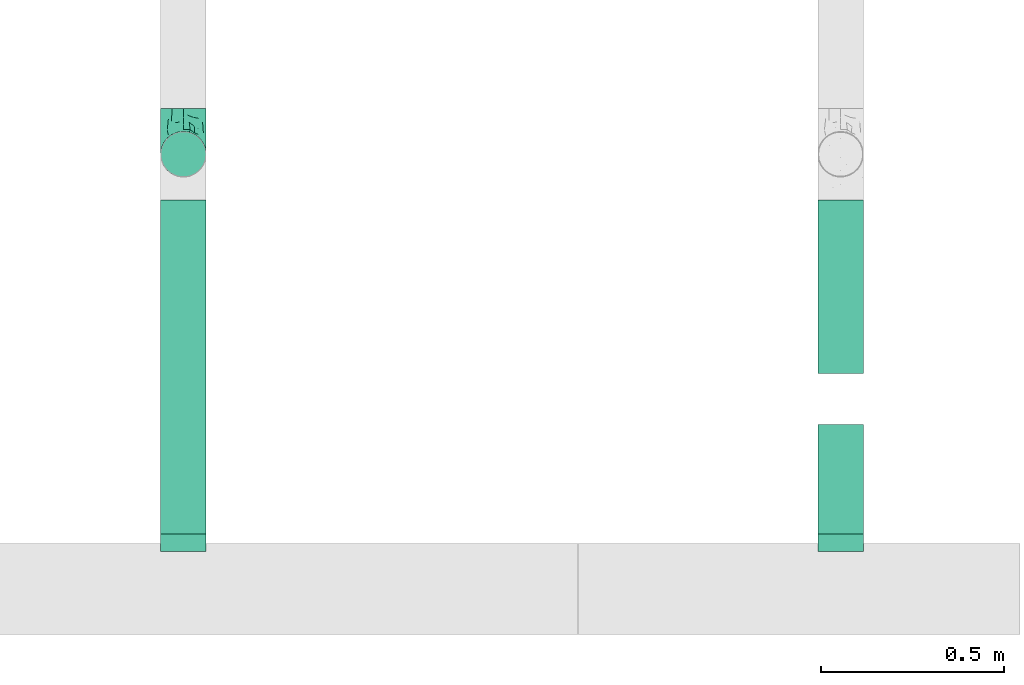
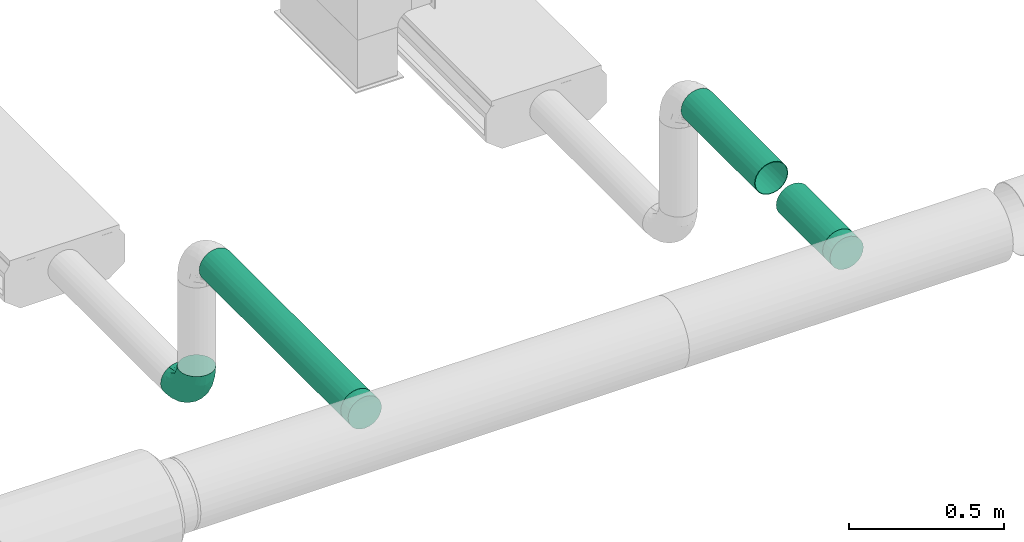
# One storey, part 27 of 36: 3 flow fittings, 3 flow segments.
"""IFC2X3 building model written with IfcOpenShell, lengths in millimetres."""

from ifc_helpers import new_model, entity, si_unit, converted_unit, derived_unit, direction, frame, origin_with_axes, origin_2d_with_axis, place, context, subcontext, project, spatial, hollow_circle, extrude, open_shell, surface_model, source, transform, mapped, type_object, element, save


model = new_model("IFC2X3")

# Units and contexts
model_context = context("Model", 3, precision=0.01, world=frame((0.0, 4.29681676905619e-09, 0.0)), true_north=direction((4.01073788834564e-13, 1.0)))
plan_context = context("Plan", 3, precision=0.01, world=frame((0.0, 4.29681676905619e-09, 0.0)), true_north=direction((4.01073788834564e-13, 1.0)))
body_context = subcontext(model_context, "Body", "Model", "MODEL_VIEW")
ifc_project = project(units=[converted_unit("PLANEANGLEUNIT", "DEGREE", entity("IfcPositiveLengthMeasure", 0.0174532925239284), si_unit("PLANEANGLEUNIT", "RADIAN"), dimensions=[0, 0, 0, 0, 0, 0, 0]), si_unit("AREAUNIT", "SQUARE_METRE"), si_unit("LENGTHUNIT", "METRE", prefix="MILLI"), si_unit("MASSUNIT", "GRAM", prefix="KILO"), si_unit("POWERUNIT", "WATT"), si_unit("PRESSUREUNIT", "PASCAL"), si_unit("FORCEUNIT", "NEWTON", prefix="KILO"), si_unit("ELECTRICCURRENTUNIT", "AMPERE"), si_unit("THERMODYNAMICTEMPERATUREUNIT", "DEGREE_CELSIUS"), si_unit("TIMEUNIT", "SECOND"), si_unit("VOLUMEUNIT", "CUBIC_METRE"), derived_unit("LINEARVELOCITYUNIT", [(si_unit("LENGTHUNIT", "METRE"), 1), (si_unit("TIMEUNIT", "SECOND"), -1)]), derived_unit("VOLUMETRICFLOWRATEUNIT", [(si_unit("VOLUMEUNIT", "CUBIC_METRE"), 1), (si_unit("TIMEUNIT", "SECOND"), -1)]), derived_unit("THERMALTRANSMITTANCEUNIT", [(si_unit("POWERUNIT", "WATT"), 1), (si_unit("THERMODYNAMICTEMPERATUREUNIT", "KELVIN"), -1), (si_unit("AREAUNIT", "SQUARE_METRE"), -1)])], contexts=[model_context, plan_context])

# Site, building, storey
site_placement = place(None, frame((0.0, -4.29681676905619e-09, 0.0), z_axis=(0.0, 0.0, 1.0), x_axis=(1.0, 0.0, 0.0)))
site = spatial("IfcSite", under=ifc_project, at=site_placement, CompositionType="ELEMENT")
building_placement = place(site_placement, frame((0.0, 4.29681676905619e-09, 0.0), z_axis=(0.0, 0.0, 1.0), x_axis=(1.0, 0.0, 0.0)))
building = spatial("IfcBuilding", under=site, at=building_placement, Name="mc-building", CompositionType="ELEMENT")
storey_placement = place(building_placement, frame((0.0, 0.0, 204000.0), z_axis=(0.0, 0.0, 1.0), x_axis=(1.0, 0.0, 0.0)))
storey = spatial("IfcBuildingStorey", under=building, at=storey_placement, Name="Nivå D", CompositionType="ELEMENT", Elevation=204000.0)

# Flow fittings
duct_fitting_type_1 = type_object("IfcDuctFittingType", Name="magicirc_elbow_full_radius_001", PredefinedType="BEND")
shared_shape_1 = source(origin_with_axes(), body_context, "Body", "SurfaceModel", [
    surface_model("IfcShellBasedSurfaceModel", [(-125.00008, 16.17619, -60.37037), (-125.00008, 0.0, -62.5), (-125.00008, 44.19417, -44.19417), (-125.00008, 31.25, -54.12659), (-125.00008, 60.37037, -16.17619), (-125.00008, 54.12659, -31.25), (-125.00008, -16.17619, -60.37037), (-125.00008, -31.25, -54.12659), (-125.00008, -44.19417, -44.19417), (-125.00008, -54.12659, -31.25), (-125.00008, -60.37037, -16.17619), (-125.00008, -62.5, 0.0), (-125.00008, 62.5, 0.0), (-125.00008, -31.25, 54.12659), (-125.00008, 60.37037, 16.17619), (-125.00008, 54.12659, 31.25), (-125.00008, 16.17619, 60.37037), (-125.00008, 31.25, 54.12659), (-125.00008, 44.19417, 44.19417), (-125.00008, -54.12659, 31.25), (-125.00008, -44.19417, 44.19417), (-125.00008, -60.37037, 16.17619), (-125.00008, -16.17619, 60.37037), (-125.00008, 0.0, 62.5), (-16.17627, 125.00007, -60.37037), (44.1941, 125.00011, -44.19417), (-8e-05, 125.00008, -62.5), (-44.19425, 125.00006, -44.19417), (-31.25008, 125.00006, -54.12659), (-54.12667, 125.00005, -31.25), (-60.37044, 125.00004, -16.17619), (16.17611, 125.00009, -60.37037), (31.24992, 125.0001, -54.12659), (60.37028, 125.00012, -16.17619), (54.12651, 125.00012, -31.25), (62.49992, 125.00012, 0.0), (-60.37044, 125.00004, 16.17619), (-16.17627, 125.00007, 60.37037), (-44.19425, 125.00006, 44.19417), (-54.12667, 125.00005, 31.25), (-31.25008, 125.00006, 54.12659), (-8e-05, 125.00008, 62.5), (60.37028, 125.00012, 16.17619), (44.1941, 125.00011, 44.19417), (54.12651, 125.00012, 31.25), (31.24992, 125.0001, 54.12659), (16.17611, 125.00009, 60.37037), (-62.50008, 125.00004, 0.0), (-92.01499, -48.59662, 35.11543), (-82.31108, -36.10079, 46.59002), (-83.27738, -57.79898, 0.0), (21.59337, 8.09572, 0.0), (6.68949, -6.68949, 12.50062), (-8.0957, -21.59337, 0.0), (-85.18294, -54.95352, 19.72452), (-63.86869, 108.10794, 10.69753), (-72.65271, 88.16477, 13.64848), (-58.8594, 108.47701, 26.01877), (28.68801, 50.93019, 42.73586), (15.2499, 48.30382, 51.88115), (13.33609, 22.15572, 40.76355), (-28.58039, -33.18172, 16.61251), (-55.80936, -40.00167, 31.60253), (-55.92907, -46.21073, 18.75922), (-43.64685, -43.93165, 0.0), (-11.16432, 11.16432, 51.09904), (-91.91548, -23.64007, 56.2333), (-48.30381, -15.24993, 51.88115), (-62.22465, -0.56087, 60.57833), (-86.05227, 71.09174, 22.01564), (-76.29763, 73.71529, 30.99182), (-95.48006, -8.27954, 61.43109), (-21.7217, 61.46247, 62.38786), (-46.2947, 46.29467, 60.98138), (-37.21572, 27.312, 62.17805), (-96.34428, 24.51221, 59.0402), (-23.33019, 107.80842, 58.54242), (-8.56594, 93.49125, 62.34649), (-87.52036, 9.58041, 62.39347), (-90.84336, 62.14568, 32.36992), (-104.65638, 61.64741, 22.10299), (-108.6762, 63.76169, 10.43133), (-88.81048, 72.98576, 10.36438), (36.10074, 82.31111, 46.59002), (-22.15571, -13.3361, 40.76355), (-97.70221, 52.10141, 41.01675), (33.1817, 28.58041, 16.61251), (43.93162, 43.64688, 0.0), (-108.1333, 37.84893, 50.9265), (-16.31429, 41.86092, 61.36861), (-31.05503, 11.46575, 58.3624), (-6.385, 33.76706, 57.43674), (23.64002, 91.9155, 56.2333), (8.27948, 95.48006, 61.43109), (40.00164, 55.80938, 31.60253), (47.31254, 55.33616, 14.21496), (57.79892, 83.27743, 0.0), (54.95347, 85.18296, 19.72452), (48.59656, 92.01501, 35.11543), (-51.08399, 80.06206, 49.23756), (-51.34971, 100.68879, 40.68918), (-65.8815, 69.79933, 44.27158), (-67.2576, 101.08231, 0.0), (-66.75096, 56.08362, 51.93913), (-47.27429, 67.56378, 55.69769), (-80.8059, 80.80584, 0.0), (-101.08236, 67.25753, 0.0), (-27.03015, 84.68907, 59.52251), (-39.49555, 96.79791, 51.80473), (-4.68937, 4.68937, 43.22246), (2.91364, -2.91364, 27.95972), (-68.67974, 26.77169, 61.38152), (-61.329, 15.31518, 62.47333), (-66.44481, 42.4079, 57.80884), (-86.0654, 42.42608, 52.63145), (-36.40735, 64.87814, 59.87196), (0.56083, 62.22465, 60.57833), (-50.92898, -28.66756, 42.75499), (-64.50933, 88.50412, 30.85553), (-27.43127, -26.16339, 29.83955), (22.73421, 21.43216, 28.89236), (-90.73917, 40.97988, -52.27133), (-51.05948, -15.77312, -52.43613), (-54.27153, -0.77961, -59.44482), (-25.11171, -1.04584, -51.21225), (-98.94236, 7.90272, -62.29658), (-67.16149, 94.52641, -18.73918), (-96.17127, 24.53976, -59.04752), (-57.88416, 72.64105, -48.12601), (-44.50921, 76.42377, -54.27754), (-57.76287, 57.76282, -54.87721), (-107.28054, 64.03146, -11.08737), (-59.60369, -46.85881, -20.95959), (-91.17803, -55.95169, -20.37553), (-87.70535, 72.36168, -15.72738), (37.33982, 90.42129, -47.18844), (21.56935, 79.15017, -55.58604), (24.63933, 105.55623, -56.88213), (-98.81841, 51.80612, -40.89409), (-75.37661, 57.27462, -47.13743), (-29.5623, -32.616, -19.86672), (2.6311, 29.3589, -52.12213), (-22.06404, 22.06403, -59.01679), (-105.22473, -49.75349, -36.31269), (-39.22859, 98.11976, -51.7028), (-25.51308, 90.93132, -59.26694), (7.0632, 14.54732, -41.00964), (25.49528, 46.66585, -43.72165), (20.9994, 20.90791, -30.93536), (-90.42127, -37.33987, -47.18844), (-47.4047, -35.90659, -32.07933), (-105.55621, -24.6394, -56.88213), (0.77958, 54.27153, -59.44482), (12.91752, 53.35703, -54.59988), (7.88042, 92.08259, -61.35725), (-79.15015, -21.5694, -55.58604), (-92.08258, -7.88048, -61.35725), (-78.52971, -46.34868, -33.8522), (-68.20961, -28.53783, -49.07388), (46.34863, 78.52974, -33.8522), (46.85877, 59.60372, -20.95959), (35.90656, 47.40472, -32.07933), (-75.95085, 74.3101, -30.65773), (-100.92726, 60.72326, -27.00798), (2.91554, -2.91554, -27.95435), (6.68997, -6.68997, -12.49729), (32.61598, 29.56232, -19.86672), (-54.06792, 91.48682, -41.70622), (-58.74828, 101.55882, -30.19257), (-7.90279, 98.94235, -62.29658), (49.75343, 105.22475, -36.31269), (-14.77489, 68.85353, -62.48651), (-33.79554, 36.46999, -62.46452), (-36.98166, 59.25003, -60.63975), (55.95163, 91.17806, -20.37553), (-61.70772, 36.16981, -60.43635), (-23.35088, -23.1825, -30.24251), (-68.85354, 14.77484, -62.48651), (-16.6083, -10.64431, -39.25755), (-46.66583, -25.49531, -43.72165), (-69.70069, 70.7847, -40.55271)], [open_shell([[[0, 1, 2]], [[3, 0, 2]], [[4, 5, 2]], [[6, 2, 1]], [[4, 2, 6]], [[7, 8, 6]], [[8, 4, 6]], [[9, 10, 8]], [[11, 8, 10]], [[8, 11, 4]], [[11, 12, 4]], [[12, 13, 14]], [[15, 14, 16]], [[16, 17, 18]], [[15, 16, 18]], [[16, 14, 13]], [[19, 20, 21]], [[21, 20, 11]], [[22, 23, 13]], [[20, 13, 11]], [[13, 23, 16]], [[13, 12, 11]], [[24, 25, 26]], [[27, 24, 28]], [[27, 29, 30]], [[27, 30, 24]], [[25, 24, 30]], [[31, 25, 32]], [[31, 26, 25]], [[25, 33, 34]], [[33, 25, 35]], [[25, 36, 35]], [[25, 30, 36]], [[35, 36, 37]], [[38, 36, 39]], [[40, 37, 36]], [[40, 36, 38]], [[35, 37, 41]], [[42, 43, 44]], [[43, 42, 45]], [[45, 41, 46]], [[41, 45, 42]], [[35, 41, 42]], [[30, 47, 36]], [[20, 48, 49]], [[21, 11, 50]], [[51, 52, 53]], [[54, 19, 21]], [[50, 54, 21]], [[55, 56, 57]], [[19, 48, 20]], [[58, 59, 60]], [[61, 62, 63]], [[61, 63, 64]], [[20, 49, 13]], [[61, 64, 53]], [[65, 60, 59]], [[66, 67, 68]], [[56, 69, 70]], [[71, 23, 22]], [[72, 73, 74]], [[17, 16, 75]], [[66, 13, 49]], [[37, 76, 77]], [[23, 78, 16]], [[15, 79, 80]], [[81, 12, 14]], [[69, 82, 81]], [[83, 43, 45]], [[65, 67, 84]], [[18, 85, 15]], [[86, 51, 87]], [[18, 17, 88]], [[89, 90, 91]], [[83, 45, 92]], [[69, 81, 80]], [[93, 46, 41]], [[94, 86, 95]], [[96, 97, 95]], [[96, 42, 97]], [[98, 97, 44]], [[41, 37, 77]], [[63, 50, 64]], [[42, 44, 97]], [[83, 94, 98]], [[44, 43, 98]], [[99, 100, 101]], [[55, 102, 56]], [[36, 57, 39]], [[42, 96, 35]], [[48, 54, 62]], [[79, 70, 69]], [[99, 103, 104]], [[47, 102, 55]], [[23, 71, 78]], [[56, 105, 82]], [[18, 88, 85]], [[102, 105, 56]], [[92, 45, 46]], [[57, 100, 39]], [[82, 105, 106]], [[107, 108, 104]], [[109, 110, 60]], [[107, 72, 77]], [[13, 66, 22]], [[108, 107, 76]], [[76, 37, 40]], [[40, 38, 108]], [[83, 92, 59]], [[95, 86, 87]], [[111, 112, 74]], [[75, 16, 78]], [[113, 75, 111]], [[103, 85, 114]], [[80, 79, 69]], [[100, 38, 39]], [[107, 104, 115]], [[107, 115, 72]], [[93, 77, 116]], [[67, 66, 49]], [[71, 66, 68]], [[67, 117, 84]], [[67, 65, 90]], [[93, 92, 46]], [[116, 91, 59]], [[116, 59, 92]], [[109, 60, 65]], [[54, 48, 19]], [[49, 48, 62]], [[83, 98, 43]], [[97, 98, 94]], [[111, 75, 78]], [[88, 75, 114]], [[81, 82, 106]], [[56, 82, 69]], [[12, 81, 106]], [[81, 14, 80]], [[14, 15, 80]], [[79, 15, 85]], [[85, 101, 79]], [[70, 101, 118]], [[108, 99, 104]], [[113, 103, 114]], [[111, 74, 73]], [[116, 77, 72]], [[90, 74, 68]], [[72, 74, 89]], [[77, 93, 41]], [[92, 93, 116]], [[66, 71, 22]], [[78, 71, 68]], [[101, 100, 118]], [[108, 38, 100]], [[52, 61, 53]], [[119, 110, 84]], [[94, 58, 120]], [[86, 120, 52]], [[117, 67, 49]], [[61, 119, 62]], [[120, 60, 110]], [[83, 58, 94]], [[111, 78, 112]], [[113, 111, 73]], [[104, 113, 73]], [[75, 113, 114]], [[104, 103, 113]], [[85, 103, 101]], [[78, 68, 112]], [[68, 74, 112]], [[101, 70, 79]], [[56, 70, 118]], [[67, 90, 68]], [[91, 90, 65]], [[59, 91, 65]], [[89, 91, 116]], [[72, 89, 116]], [[90, 89, 74]], [[57, 56, 118]], [[47, 55, 36]], [[86, 52, 51]], [[61, 52, 110]], [[75, 88, 17]], [[85, 88, 114]], [[108, 76, 40]], [[77, 76, 107]], [[55, 57, 36]], [[100, 57, 118]], [[104, 73, 115]], [[72, 115, 73]], [[100, 99, 108]], [[103, 99, 101]], [[62, 54, 63]], [[63, 54, 50]], [[96, 95, 87]], [[94, 95, 97]], [[49, 62, 117]], [[119, 117, 62]], [[110, 119, 61]], [[117, 119, 84]], [[65, 84, 109]], [[110, 109, 84]], [[52, 120, 110]], [[94, 120, 86]], [[59, 58, 83]], [[120, 58, 60]], [[2, 121, 3]], [[122, 123, 124]], [[1, 0, 125]], [[126, 102, 47]], [[3, 127, 0]], [[128, 129, 130]], [[106, 131, 12]], [[132, 50, 133]], [[106, 134, 131]], [[135, 136, 137]], [[138, 139, 121]], [[64, 140, 53]], [[141, 124, 142]], [[121, 2, 138]], [[133, 9, 143]], [[144, 28, 145]], [[50, 11, 10]], [[146, 147, 148]], [[149, 8, 7]], [[140, 132, 150]], [[151, 149, 7]], [[141, 152, 153]], [[31, 154, 26]], [[133, 10, 9]], [[143, 9, 8]], [[155, 156, 123]], [[157, 149, 158]], [[7, 6, 151]], [[156, 6, 1]], [[159, 160, 161]], [[105, 134, 106]], [[64, 50, 132]], [[126, 162, 134]], [[138, 163, 162]], [[30, 126, 47]], [[140, 164, 165]], [[166, 87, 51]], [[167, 168, 29]], [[162, 126, 168]], [[32, 25, 135]], [[154, 31, 137]], [[24, 169, 145]], [[127, 3, 121]], [[169, 24, 26]], [[25, 34, 170]], [[28, 144, 27]], [[24, 145, 28]], [[31, 32, 137]], [[87, 166, 160]], [[165, 166, 51]], [[171, 172, 173]], [[142, 152, 141]], [[165, 51, 53]], [[156, 155, 151]], [[136, 135, 147]], [[34, 33, 174]], [[35, 96, 33]], [[175, 127, 121]], [[2, 5, 138]], [[174, 159, 170]], [[176, 140, 150]], [[171, 154, 152]], [[126, 105, 102]], [[29, 27, 167]], [[173, 145, 171]], [[131, 163, 4]], [[128, 144, 129]], [[139, 128, 130]], [[174, 160, 159]], [[170, 135, 25]], [[147, 135, 159]], [[152, 154, 136]], [[169, 154, 171]], [[153, 147, 141]], [[152, 142, 172]], [[33, 96, 174]], [[160, 96, 87]], [[155, 122, 158]], [[143, 149, 157]], [[125, 156, 1]], [[177, 172, 123]], [[177, 123, 156]], [[123, 142, 124]], [[133, 157, 132]], [[50, 10, 133]], [[126, 134, 105]], [[168, 30, 29]], [[163, 5, 4]], [[121, 139, 130]], [[175, 121, 130]], [[125, 127, 177]], [[145, 173, 129]], [[167, 27, 144]], [[147, 146, 141]], [[178, 124, 146]], [[124, 141, 146]], [[124, 179, 122]], [[162, 163, 134]], [[138, 5, 163]], [[127, 125, 0]], [[156, 125, 177]], [[154, 169, 26]], [[145, 169, 171]], [[147, 161, 148]], [[146, 164, 178]], [[176, 164, 140]], [[124, 178, 179]], [[171, 152, 172]], [[175, 130, 173]], [[123, 172, 142]], [[175, 172, 177]], [[172, 175, 173]], [[127, 175, 177]], [[162, 180, 138]], [[180, 167, 128]], [[160, 174, 96]], [[161, 160, 166]], [[161, 166, 148]], [[147, 159, 161]], [[166, 164, 148]], [[164, 146, 148]], [[150, 132, 157]], [[64, 132, 140]], [[157, 179, 150]], [[176, 179, 178]], [[180, 128, 139]], [[144, 128, 167]], [[145, 129, 144]], [[173, 130, 129]], [[138, 180, 139]], [[167, 180, 162]], [[179, 176, 150]], [[164, 176, 178]], [[140, 165, 53]], [[166, 165, 164]], [[163, 131, 134]], [[12, 131, 4]], [[135, 137, 32]], [[154, 137, 136]], [[174, 170, 34]], [[135, 170, 159]], [[156, 151, 6]], [[149, 151, 155]], [[149, 143, 8]], [[133, 143, 157]], [[162, 168, 167]], [[30, 168, 126]], [[152, 136, 153]], [[147, 153, 136]], [[158, 122, 179]], [[123, 122, 155]], [[157, 158, 179]], [[155, 158, 149]]])]),
])
flow_fitting_placement = place(storey_placement, frame((527245.00387, 417759.63634, 2599.99994000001), z_axis=(-1.0, 0.0, 0.0), x_axis=(0.0, -1.0, 0.0)))
element("IfcFlowFitting", 1, at=flow_fitting_placement, inside=storey, type_object=duct_fitting_type_1, Name="magicirc_elbow_full_radius_001", context=body_context, shape_type="MappedRepresentation", body=[
    mapped(shared_shape_1, transform((0.0, 0.0, 0.0), scale=1.0)),
])
duct_fitting_type_2 = type_object("IfcDuctFittingType", Name="magicirc_tapoutlet_001", PredefinedType="CONNECTOR")
shared_shape_2 = source(origin_with_axes(), body_context, "Body", "SurfaceModel", [
    surface_model("IfcShellBasedSurfaceModel", [(25.0, 0.0, -62.5), (25.0, -31.25, -54.12659), (25.0, -16.17619, -60.37037), (-22.84282, 0.0, -62.5), (-22.84282, -16.17619, -60.37037), (-22.84282, 16.17619, -60.37037), (-22.84282, 60.37037, 16.17619), (-22.84282, 31.25, -54.12659), (-22.84282, 44.19417, -44.19417), (-22.84282, 54.12659, -31.25), (-22.84282, -62.5, 0.0), (-22.84282, -60.37037, 16.17619), (-22.84282, -44.19417, -44.19417), (-22.84282, -31.25, -54.12659), (-22.84282, -60.37037, -16.17619), (-22.84282, -54.12659, -31.25), (-22.84282, 60.37037, -16.17619), (-22.84282, 54.12659, 31.25), (-22.84282, 44.19417, 44.19417), (-22.84282, 16.17619, 60.37037), (-22.84282, 31.25, 54.12659), (-22.84282, -16.17619, 60.37037), (-22.84282, -54.12659, 31.25), (-22.84282, -44.19417, 44.19417), (-22.84282, -31.25, 54.12659), (-22.84282, 0.0, 62.5), (-22.84282, 62.5, 0.0), (0.0, 0.0, 62.5), (0.0, 16.17619, 60.37037), (0.0, 31.25, 54.12659), (0.0, 44.19417, 44.19417), (0.0, 54.12659, 31.25), (0.0, 60.37037, 16.17619), (0.0, 62.5, 0.0), (0.0, 60.37037, -16.17619), (0.0, 54.12659, -31.25), (0.0, 44.19417, -44.19417), (0.0, 31.25, -54.12659), (0.0, 16.17619, -60.37037), (0.0, 0.0, -62.5), (0.0, -16.17619, -60.37037), (0.0, -31.25, -54.12659), (0.0, -44.19417, -44.19417), (0.0, -54.12659, -31.25), (0.0, -60.37037, -16.17619), (0.0, -62.5, 0.0), (0.0, -60.37037, 16.17619), (0.0, -54.12659, 31.25), (0.0, -44.19417, 44.19417), (0.0, -31.25, 54.12659), (0.0, -16.17619, 60.37037), (25.0, 44.19417, -44.19417), (25.0, 62.5, 0.0), (25.0, 31.25, -54.12659), (25.0, 54.12659, -31.25), (25.0, -62.5, 0.0), (25.0, -60.37037, -16.17619), (25.0, -60.37037, 16.17619), (25.0, 16.17619, -60.37037), (25.0, -44.19417, -44.19417), (25.0, -54.12659, -31.25), (25.0, 60.37037, -16.17619), (25.0, 60.37037, 16.17619), (25.0, 54.12659, 31.25), (25.0, 44.19417, 44.19417), (25.0, 31.25, 54.12659), (25.0, 0.0, 62.5), (25.0, 16.17619, 60.37037), (25.0, -44.19417, 44.19417), (25.0, -54.12659, 31.25), (25.0, -16.17619, 60.37037), (25.0, -31.25, 54.12659)], [open_shell([[[0, 1, 2]], [[3, 4, 5]], [[5, 6, 7]], [[8, 6, 9]], [[7, 6, 8]], [[5, 10, 11]], [[12, 10, 13]], [[4, 13, 10]], [[14, 10, 15]], [[12, 15, 10]], [[10, 5, 4]], [[16, 9, 6]], [[6, 5, 17]], [[18, 17, 5]], [[5, 19, 20]], [[5, 20, 18]], [[5, 21, 19]], [[22, 23, 5]], [[5, 11, 22]], [[23, 24, 5]], [[5, 24, 21]], [[21, 25, 19]], [[26, 16, 6]], [[25, 27, 28]], [[19, 28, 29]], [[25, 28, 19]], [[20, 30, 18]], [[20, 19, 29]], [[30, 20, 29]], [[17, 31, 32]], [[6, 32, 33]], [[18, 31, 17]], [[6, 17, 32]], [[26, 6, 33]], [[31, 18, 30]], [[26, 33, 34]], [[16, 34, 35]], [[26, 34, 16]], [[9, 36, 8]], [[9, 16, 35]], [[36, 9, 35]], [[7, 37, 38]], [[5, 38, 39]], [[8, 37, 7]], [[5, 7, 38]], [[3, 5, 39]], [[37, 8, 36]], [[3, 39, 40]], [[4, 40, 41]], [[3, 40, 4]], [[13, 42, 12]], [[13, 4, 41]], [[42, 13, 41]], [[15, 43, 44]], [[14, 44, 45]], [[12, 43, 15]], [[14, 15, 44]], [[10, 14, 45]], [[43, 12, 42]], [[10, 45, 46]], [[11, 46, 47]], [[10, 46, 11]], [[22, 48, 23]], [[22, 11, 47]], [[48, 22, 47]], [[24, 49, 50]], [[21, 50, 27]], [[23, 49, 24]], [[21, 24, 50]], [[25, 21, 27]], [[49, 23, 48]], [[5, 17, 6]], [[5, 18, 17]], [[20, 5, 19]], [[20, 18, 5]], [[19, 5, 21]], [[22, 5, 11]], [[51, 52, 53]], [[51, 54, 52]], [[55, 56, 57]], [[58, 52, 0]], [[53, 52, 58]], [[59, 0, 57]], [[0, 59, 1]], [[1, 2, 0]], [[60, 57, 56]], [[57, 60, 59]], [[56, 57, 55]], [[52, 54, 61]], [[62, 63, 0]], [[0, 63, 64]], [[0, 65, 66]], [[64, 65, 0]], [[65, 67, 66]], [[0, 68, 69]], [[69, 57, 0]], [[70, 71, 0]], [[71, 68, 0]], [[70, 0, 66]], [[52, 62, 0]], [[27, 66, 67]], [[28, 67, 65]], [[27, 67, 28]], [[29, 64, 30]], [[29, 28, 65]], [[64, 29, 65]], [[31, 63, 62]], [[32, 62, 52]], [[30, 63, 31]], [[32, 31, 62]], [[33, 32, 52]], [[63, 30, 64]], [[33, 52, 61]], [[34, 61, 54]], [[33, 61, 34]], [[35, 51, 36]], [[35, 34, 54]], [[51, 35, 54]], [[37, 53, 58]], [[38, 58, 0]], [[36, 53, 37]], [[38, 37, 58]], [[39, 38, 0]], [[53, 36, 51]], [[39, 0, 2]], [[40, 2, 1]], [[39, 2, 40]], [[41, 59, 42]], [[41, 40, 1]], [[59, 41, 1]], [[43, 60, 56]], [[44, 56, 55]], [[42, 60, 43]], [[44, 43, 56]], [[45, 44, 55]], [[60, 42, 59]], [[45, 55, 57]], [[46, 57, 69]], [[45, 57, 46]], [[47, 68, 48]], [[47, 46, 69]], [[68, 47, 69]], [[49, 71, 70]], [[50, 70, 66]], [[48, 71, 49]], [[50, 49, 70]], [[27, 50, 66]], [[71, 48, 68]], [[63, 0, 62]], [[63, 64, 0]], [[0, 64, 65]], [[66, 65, 67]], [[57, 0, 69]], [[0, 71, 68]], [[66, 70, 0]], [[62, 0, 52]]])]),
])
for number, where, z_axis, x_axis, name in (
    (2, (527245.00387, 416693.96658, 3200.0), (0.0, 0.0, -1.0), (0.0, 1.0, 0.0), "magicirc_tapoutlet_001"),
    (3, (529045.00387, 416693.96658, 3200.0), (0.0, 0.0, -1.0), (0.0, 1.0, 0.0), "magicirc_tapoutlet_001"),
):
    element("IfcFlowFitting", number, at=place(storey_placement, frame(where, z_axis=z_axis, x_axis=x_axis)), inside=storey, type_object=duct_fitting_type_2, Name=name, context=body_context, shape_type="MappedRepresentation", body=[
        mapped(shared_shape_2, transform((0.0, 0.0, 0.0), scale=1.0)),
    ])

# Flow segments
duct_segment_type = type_object("IfcDuctSegmentType", Name="KK001T - Spiro kanaler, Forsinket stål", PredefinedType="RIGIDSEGMENT")
shared_shape_3 = source(origin_with_axes(), body_context, "Body", "SweptSolid", [
    extrude(hollow_circle(Radius=62.5, WallThickness=2.0, at=origin_2d_with_axis()), frame((0.0, 0.0, 0.0), z_axis=(1.0, 0.0, 0.0), x_axis=(0.0, 1.0, 0.0)), (0.0, 0.0, 1.0), 915.7),
])
flow_segment_1_placement = place(storey_placement, frame((527245.00387, 417634.63635, 3199.99995), z_axis=(0.0, 0.0, 1.0), x_axis=(0.0, -1.0, 0.0)))
element("IfcFlowSegment", 4, at=flow_segment_1_placement, inside=storey, type_object=duct_segment_type, Name="KK001T - Spiro kanaler, Forsinket stål", context=body_context, shape_type="MappedRepresentation", body=[
    mapped(shared_shape_3, transform((0.0, 0.0, 0.0), scale=1.0)),
])
shared_shape_4 = source(origin_with_axes(), body_context, "Body", "SweptSolid", [
    extrude(hollow_circle(Radius=62.5, WallThickness=2.0, at=origin_2d_with_axis()), frame((0.0, 0.0, 0.0), z_axis=(1.0, 0.0, 0.0), x_axis=(0.0, 1.0, 0.0)), (0.0, 0.0, 1.0), 300.0),
])
flow_segment_2_placement = place(storey_placement, frame((529045.00387, 417018.96658, 3199.99997999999), z_axis=(0.0, 0.0, 1.0), x_axis=(0.0, -1.0, 0.0)))
element("IfcFlowSegment", 5, at=flow_segment_2_placement, inside=storey, type_object=duct_segment_type, Name="KK001T - Spiro kanaler, Forsinket stål", context=body_context, shape_type="MappedRepresentation", body=[
    mapped(shared_shape_4, transform((0.0, 0.0, 0.0), scale=1.0)),
])
shared_shape_5 = source(origin_with_axes(), body_context, "Body", "SweptSolid", [
    extrude(hollow_circle(Radius=62.5, WallThickness=2.0, at=origin_2d_with_axis()), frame((0.0, 0.0, 0.0), z_axis=(1.0, 0.0, 0.0), x_axis=(0.0, 1.0, 0.0)), (0.0, 0.0, 1.0), 475.7),
])
flow_segment_3_placement = place(storey_placement, frame((529045.00387, 417634.63635, 3199.99995), z_axis=(0.0, 0.0, 1.0), x_axis=(0.0, -1.0, 0.0)))
element("IfcFlowSegment", 6, at=flow_segment_3_placement, inside=storey, type_object=duct_segment_type, Name="KK001T - Spiro kanaler, Forsinket stål", context=body_context, shape_type="MappedRepresentation", body=[
    mapped(shared_shape_5, transform((0.0, 0.0, 0.0), scale=1.0)),
])

save(model, "model.ifc")
